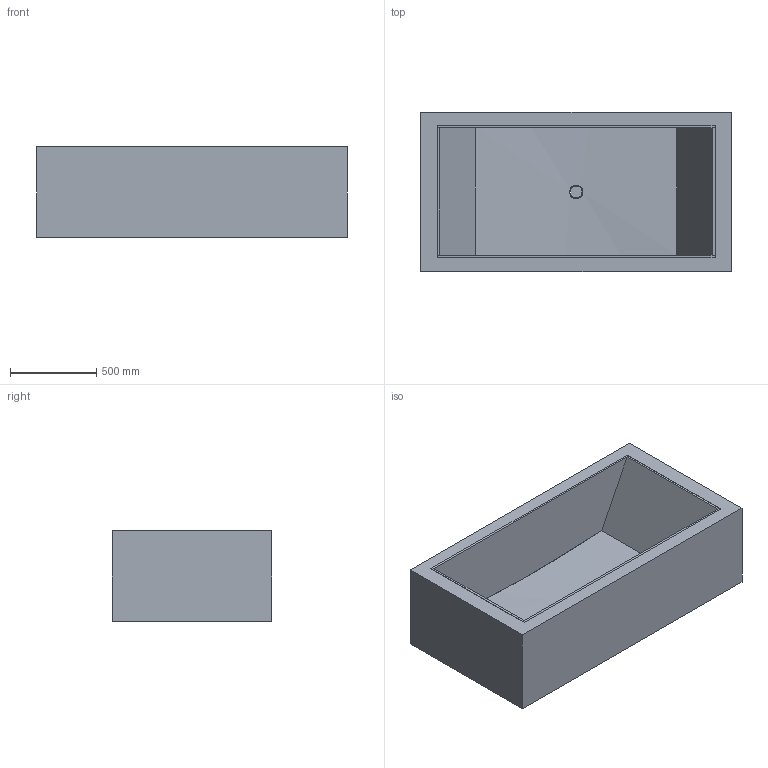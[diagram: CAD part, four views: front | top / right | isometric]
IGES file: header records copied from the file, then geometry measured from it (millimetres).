
Global section: file name: \\Archi-NAS\Comune\X GIOVANNI\LAVABI\VASCHE SU MISURA\SQUARE BIG\3D\SQUARE BIG.igs; native system: Rhinoceros ( Feb 23 2021 ); preprocessor: Trout Lake IGES 012 Feb 23 2021; date: 230531.125352; units: millimetre
Bounding box: 1800.09 x 922.46 x 525.35 mm (x, y, z)
Surface area: 12683787.1 mm2 (no closed solid volume)
Topology: 0 solids, 0 shells, 40 faces, 261 edges, 258 vertices
Faces by surface type: bspline 40
